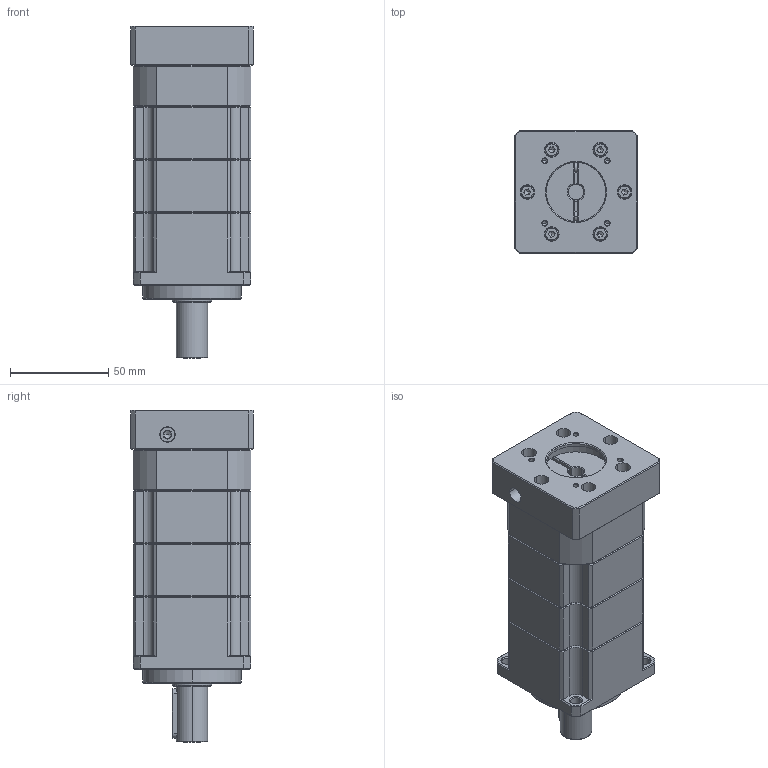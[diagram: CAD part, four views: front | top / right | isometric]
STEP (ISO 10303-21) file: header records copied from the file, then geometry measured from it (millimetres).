
FILE_DESCRIPTION (( 'STEP AP214' ), '1' );
FILE_NAME ('ZPB060-D16-L3-P1-8-30-45-M3.step', '2024-04-23T15:44:00', ( 'Windows 蚚誧' ), ( 'Organization' ), 'SwSTEP 2.0', 'SolidWorks 2016', '' );
FILE_SCHEMA (( 'AUTOMOTIVE_DESIGN' ));
Length unit declared in the file: millimetre
Products named in the file (1): ZPB060-D16-L3-P1-8-30-45-M3
Bounding box: 62.5 x 62.5 x 169 mm (x, y, z)
Volume: 422555.1 mm3; surface area: 88874.4 mm2
Topology: 17 solids, 25 shells, 2209 faces, 6059 edges, 3872 vertices
Faces by surface type: plane 1130, bspline 373, cylinder 330, cone 234, torus 96, sphere 46
Entity records: 113104 total; most frequent: CARTESIAN_POINT 36267, ORIENTED_EDGE 11778, DIRECTION 9366, EDGE_CURVE 5889, VERTEX_POINT 3803, LINE 3510, VECTOR 3510, AXIS2_PLACEMENT_3D 2928
